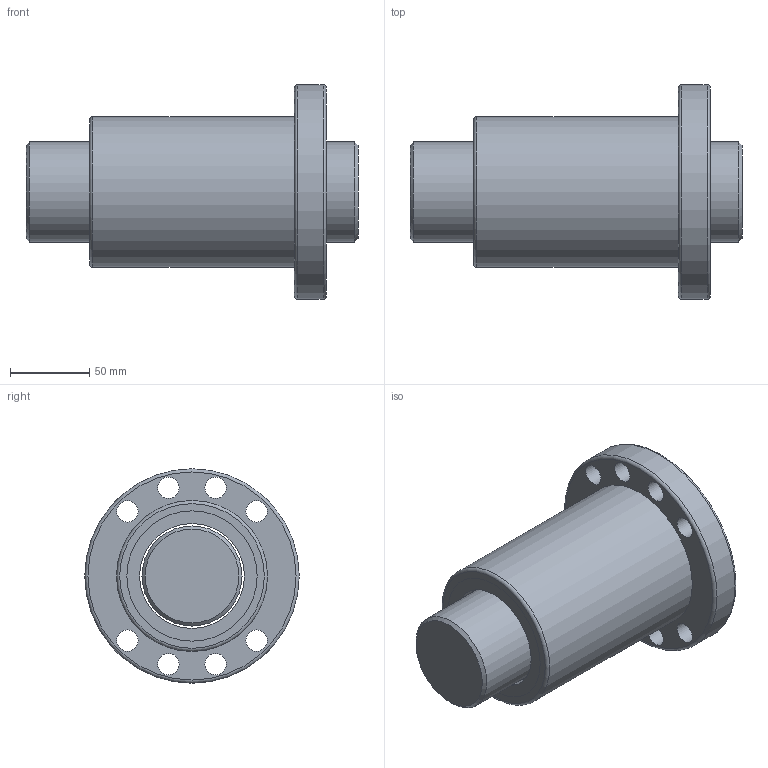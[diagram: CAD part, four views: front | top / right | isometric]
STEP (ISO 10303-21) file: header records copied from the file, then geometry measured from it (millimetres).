
FILE_DESCRIPTION(/* description */ (''),/* implementation_level */ '2;1');
FILE_NAME(/* name */ 'SFU6320',/* time_stamp */ '2007-10-26T13:33:54+08:00',/* author */ (''),/* organization */ (''),/* preprocessor_version */ 'ST-DEVELOPER v9',/* originating_system */ 'EDS PLM SOLUTIONS - UNIGRAPHICS NX 1.0',/* authorisation */ '');
FILE_SCHEMA (('CONFIG_CONTROL_DESIGN'));
Length unit declared in the file: millimetre
Products named in the file (1): FANNDA0400ij
Bounding box: 209 x 135 x 135 mm (x, y, z)
Volume: 1314030.2 mm3; surface area: 166077.3 mm2
Topology: 4 solids, 4 shells, 34 faces, 64 edges, 41 vertices
Faces by surface type: cylinder 18, plane 11, torus 3, cone 2
Full cylindrical faces by diameter (mm): 13.5 x8, 63 x1, 66 x3, 82 x4, 95 x1, 135 x1
Entity records: 878 total; most frequent: DIRECTION 152, CARTESIAN_POINT 117, EDGE_LOOP 82, ORIENTED_EDGE 82, AXIS2_PLACEMENT_3D 76, FACE_BOUND 69, VERTEX_POINT 41, EDGE_CURVE 41
